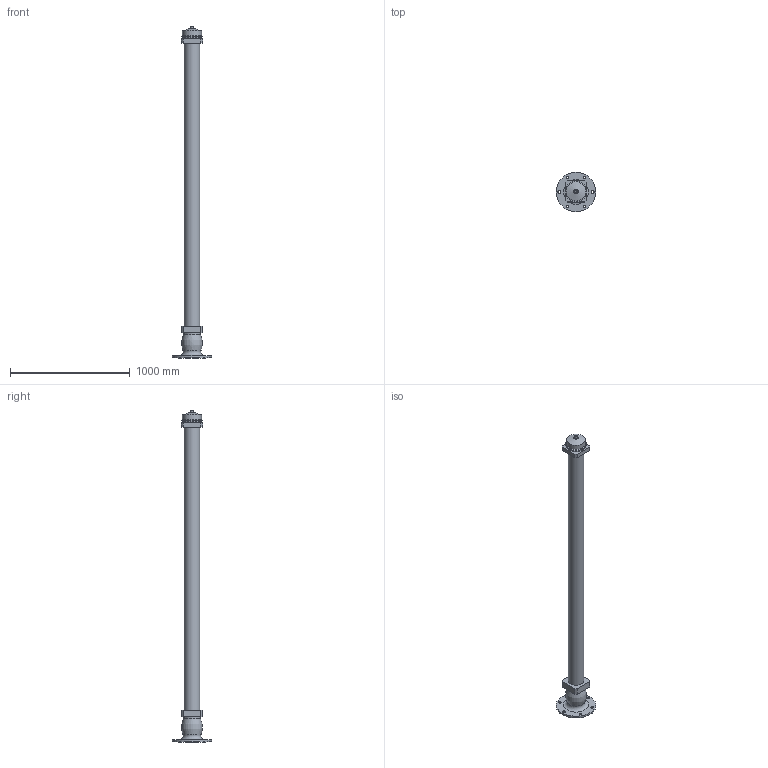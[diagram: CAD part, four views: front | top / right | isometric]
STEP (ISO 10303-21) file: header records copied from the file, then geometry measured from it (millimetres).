
FILE_DESCRIPTION(('STEP AP203'), '1');
FILE_NAME('Ãèäðàíò GPP 2750 ïîæàðíûé ïîäçåìíûé', '', ('UNSPECIFIED'), ('UNSPECIFIED'), 'ASCON STEP Converter 1.6', 'ASCON Math Kernel', '');
FILE_SCHEMA(('CONFIG_CONTROL_DESIGN'));
Length unit declared in the file: millimetre
Bounding box: 330 x 330 x 2772 mm (x, y, z)
Volume: 40611017.1 mm3; surface area: 1414797 mm2
Topology: 1 solids, 1 shells, 47 faces, 104 edges, 67 vertices
Faces by surface type: plane 26, cylinder 12, cone 7, torus 2
Full cylindrical faces by diameter (mm): 20 x1, 22 x6, 129 x1, 142 x1, 143 x1, 157.302 x1, 160 x1
Entity records: 1617 total; most frequent: DIRECTION 212, CARTESIAN_POINT 196, ORIENTED_EDGE 164, EDGE_LOOP 88, AXIS2_PLACEMENT_3D 82, EDGE_CURVE 82, VERTEX_POINT 66, COLOUR_RGB 48
